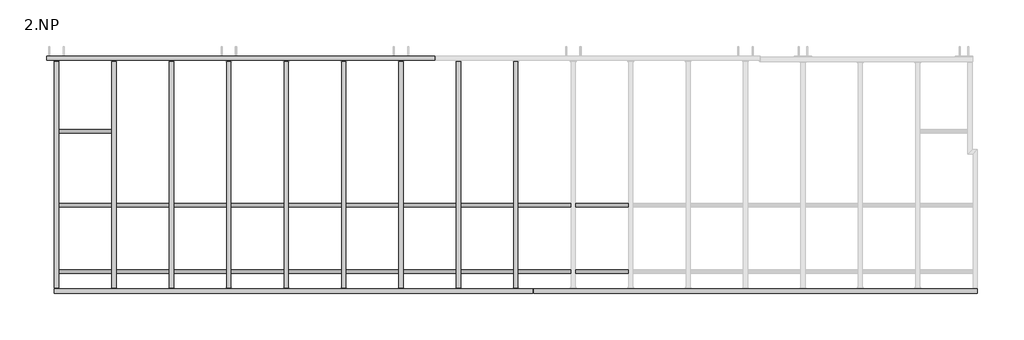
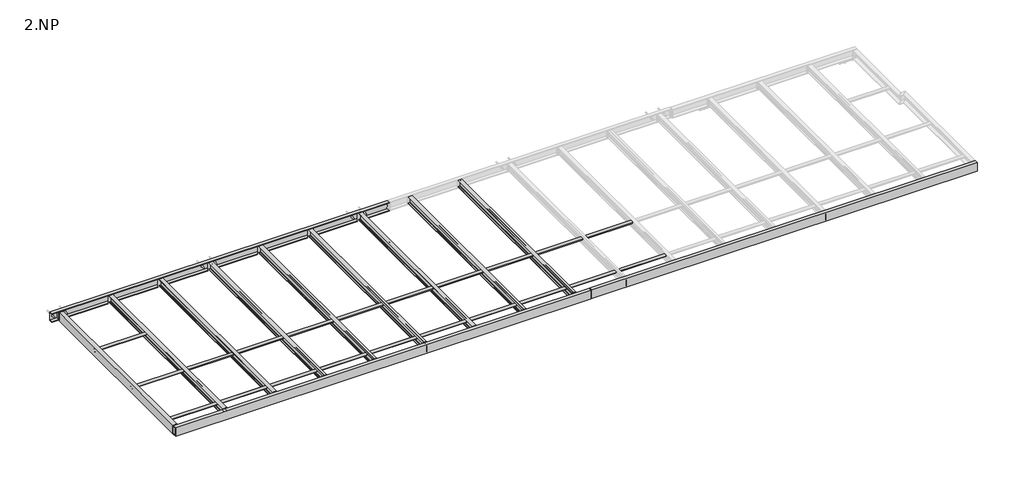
# One storey, part 1 of 18: 33 beams, 5 plates.
"""IFC4 building model written with IfcOpenShell, lengths in millimetres."""

from ifc_helpers import new_model, si_unit, point, frame, frame_2d, origin, place, context, project, spatial, polyline, circle_curve, trimmed, segment, composite_curve, outline, extrude, element, save

model = new_model("IFC4")

# Units and contexts
model_context = context("Model", 3, world=origin())
ifc_project = project(units=[si_unit("LENGTHUNIT", "METRE", prefix="MILLI")], contexts=[model_context])

# Site, building, storey
site = spatial("IfcSite", under=ifc_project)
building = spatial("IfcBuilding", under=site)
storey = spatial("IfcBuildingStorey", under=building, Name="2.NP", Elevation=3000.0)

# Beams
placement = place(None, origin())
element("IfcBeam", 1, ObjectType="CHS60.3*5", at=placement, inside=storey, context=model_context, shape_type="SweptSolid", body=[
    extrude(outline(composite_curve([segment(trimmed(circle_curve(frame_2d((1260.0, 3230.0)), 30.15), [point((1290.15, 3230.0))], [point((1229.85, 3230.0))], False, "CARTESIAN"), True, "CONTINUOUS"), segment(trimmed(circle_curve(frame_2d((1260.0, 3230.0)), 30.15), [point((1229.85, 3230.0))], [point((1290.15, 3230.0))], False, "CARTESIAN"), True, "CONTINUOUS")], self_intersect=False), holes=[composite_curve([segment(trimmed(circle_curve(frame_2d((1260.0, 3230.0)), 25.15), [point((1285.15, 3230.0))], [point((1234.85, 3230.0))], True, "CARTESIAN"), True, "CONTINUOUS"), segment(trimmed(circle_curve(frame_2d((1260.0, 3230.0)), 25.15), [point((1234.85, 3230.0))], [point((1285.15, 3230.0))], True, "CARTESIAN"), True, "CONTINUOUS")], self_intersect=False)]), frame((15.45, 0.0, 0.0), z_axis=(1.0, 0.0, 0.0), x_axis=(0.0, 1.0, 0.0)), (0.0, 0.0, 1.0), 1032.2),
])
element("IfcBeam", 2, ObjectType="CHS60.3*5", at=placement, inside=storey, context=model_context, shape_type="SweptSolid", body=[
    extrude(outline(composite_curve([segment(trimmed(circle_curve(frame_2d((1260.0, 3230.0)), 30.15), [point((1290.15, 3230.0))], [point((1229.85, 3230.0))], False, "CARTESIAN"), True, "CONTINUOUS"), segment(trimmed(circle_curve(frame_2d((1260.0, 3230.0)), 30.15), [point((1229.85, 3230.0))], [point((1290.15, 3230.0))], False, "CARTESIAN"), True, "CONTINUOUS")], self_intersect=False), holes=[composite_curve([segment(trimmed(circle_curve(frame_2d((1260.0, 3230.0)), 25.15), [point((1285.15, 3230.0))], [point((1234.85, 3230.0))], True, "CARTESIAN"), True, "CONTINUOUS"), segment(trimmed(circle_curve(frame_2d((1260.0, 3230.0)), 25.15), [point((1234.85, 3230.0))], [point((1285.15, 3230.0))], True, "CARTESIAN"), True, "CONTINUOUS")], self_intersect=False)]), frame((1052.35, 0.0, 0.0), z_axis=(1.0, 0.0, 0.0), x_axis=(0.0, 1.0, 0.0)), (0.0, 0.0, 1.0), 995.3),
])
element("IfcBeam", 3, ObjectType="CHS60.3*5", at=placement, inside=storey, context=model_context, shape_type="SweptSolid", body=[
    extrude(outline(composite_curve([segment(trimmed(circle_curve(frame_2d((1260.0, 3230.0)), 30.15), [point((1290.15, 3230.0))], [point((1229.85, 3230.0))], False, "CARTESIAN"), True, "CONTINUOUS"), segment(trimmed(circle_curve(frame_2d((1260.0, 3230.0)), 30.15), [point((1229.85, 3230.0))], [point((1290.15, 3230.0))], False, "CARTESIAN"), True, "CONTINUOUS")], self_intersect=False), holes=[composite_curve([segment(trimmed(circle_curve(frame_2d((1260.0, 3230.0)), 25.15), [point((1285.15, 3230.0))], [point((1234.85, 3230.0))], True, "CARTESIAN"), True, "CONTINUOUS"), segment(trimmed(circle_curve(frame_2d((1260.0, 3230.0)), 25.15), [point((1234.85, 3230.0))], [point((1285.15, 3230.0))], True, "CARTESIAN"), True, "CONTINUOUS")], self_intersect=False)]), frame((2052.35, 0.0, 0.0), z_axis=(1.0, 0.0, 0.0), x_axis=(0.0, 1.0, 0.0)), (0.0, 0.0, 1.0), 995.3),
])
element("IfcBeam", 4, ObjectType="CHS60.3*5", at=placement, inside=storey, context=model_context, shape_type="SweptSolid", body=[
    extrude(outline(composite_curve([segment(trimmed(circle_curve(frame_2d((1260.0, 3230.0)), 30.15), [point((1290.15, 3230.0))], [point((1229.85, 3230.0))], False, "CARTESIAN"), True, "CONTINUOUS"), segment(trimmed(circle_curve(frame_2d((1260.0, 3230.0)), 30.15), [point((1229.85, 3230.0))], [point((1290.15, 3230.0))], False, "CARTESIAN"), True, "CONTINUOUS")], self_intersect=False), holes=[composite_curve([segment(trimmed(circle_curve(frame_2d((1260.0, 3230.0)), 25.15), [point((1285.15, 3230.0))], [point((1234.85, 3230.0))], True, "CARTESIAN"), True, "CONTINUOUS"), segment(trimmed(circle_curve(frame_2d((1260.0, 3230.0)), 25.15), [point((1234.85, 3230.0))], [point((1285.15, 3230.0))], True, "CARTESIAN"), True, "CONTINUOUS")], self_intersect=False)]), frame((3052.35, 0.0, 0.0), z_axis=(1.0, 0.0, 0.0), x_axis=(0.0, 1.0, 0.0)), (0.0, 0.0, 1.0), 995.3),
])
element("IfcBeam", 5, ObjectType="CHS60.3*5", at=placement, inside=storey, context=model_context, shape_type="SweptSolid", body=[
    extrude(outline(composite_curve([segment(trimmed(circle_curve(frame_2d((1260.0, 3230.0)), 30.15), [point((1290.15, 3230.0))], [point((1229.85, 3230.0))], False, "CARTESIAN"), True, "CONTINUOUS"), segment(trimmed(circle_curve(frame_2d((1260.0, 3230.0)), 30.15), [point((1229.85, 3230.0))], [point((1290.15, 3230.0))], False, "CARTESIAN"), True, "CONTINUOUS")], self_intersect=False), holes=[composite_curve([segment(trimmed(circle_curve(frame_2d((1260.0, 3230.0)), 25.15), [point((1285.15, 3230.0))], [point((1234.85, 3230.0))], True, "CARTESIAN"), True, "CONTINUOUS"), segment(trimmed(circle_curve(frame_2d((1260.0, 3230.0)), 25.15), [point((1234.85, 3230.0))], [point((1285.15, 3230.0))], True, "CARTESIAN"), True, "CONTINUOUS")], self_intersect=False)]), frame((4052.35, 0.0, 0.0), z_axis=(1.0, 0.0, 0.0), x_axis=(0.0, 1.0, 0.0)), (0.0, 0.0, 1.0), 995.3),
])
element("IfcBeam", 6, ObjectType="CHS60.3*5", at=placement, inside=storey, context=model_context, shape_type="SweptSolid", body=[
    extrude(outline(composite_curve([segment(trimmed(circle_curve(frame_2d((1260.0, 3230.0)), 30.15), [point((1290.15, 3230.0))], [point((1229.85, 3230.0))], False, "CARTESIAN"), True, "CONTINUOUS"), segment(trimmed(circle_curve(frame_2d((1260.0, 3230.0)), 30.15), [point((1229.85, 3230.0))], [point((1290.15, 3230.0))], False, "CARTESIAN"), True, "CONTINUOUS")], self_intersect=False), holes=[composite_curve([segment(trimmed(circle_curve(frame_2d((1260.0, 3230.0)), 25.15), [point((1285.15, 3230.0))], [point((1234.85, 3230.0))], True, "CARTESIAN"), True, "CONTINUOUS"), segment(trimmed(circle_curve(frame_2d((1260.0, 3230.0)), 25.15), [point((1234.85, 3230.0))], [point((1285.15, 3230.0))], True, "CARTESIAN"), True, "CONTINUOUS")], self_intersect=False)]), frame((5052.35, 0.0, 0.0), z_axis=(1.0, 0.0, 0.0), x_axis=(0.0, 1.0, 0.0)), (0.0, 0.0, 1.0), 995.3),
])
element("IfcBeam", 7, ObjectType="CHS60.3*5", at=placement, inside=storey, context=model_context, shape_type="SweptSolid", body=[
    extrude(outline(composite_curve([segment(trimmed(circle_curve(frame_2d((1260.0, 3230.0)), 30.15), [point((1290.15, 3230.0))], [point((1229.85, 3230.0))], False, "CARTESIAN"), True, "CONTINUOUS"), segment(trimmed(circle_curve(frame_2d((1260.0, 3230.0)), 30.15), [point((1229.85, 3230.0))], [point((1290.15, 3230.0))], False, "CARTESIAN"), True, "CONTINUOUS")], self_intersect=False), holes=[composite_curve([segment(trimmed(circle_curve(frame_2d((1260.0, 3230.0)), 25.15), [point((1285.15, 3230.0))], [point((1234.85, 3230.0))], True, "CARTESIAN"), True, "CONTINUOUS"), segment(trimmed(circle_curve(frame_2d((1260.0, 3230.0)), 25.15), [point((1234.85, 3230.0))], [point((1285.15, 3230.0))], True, "CARTESIAN"), True, "CONTINUOUS")], self_intersect=False)]), frame((6052.35, 0.0, 0.0), z_axis=(1.0, 0.0, 0.0), x_axis=(0.0, 1.0, 0.0)), (0.0, 0.0, 1.0), 995.3),
])
element("IfcBeam", 8, ObjectType="CHS60.3*5", at=placement, inside=storey, context=model_context, shape_type="SweptSolid", body=[
    extrude(outline(composite_curve([segment(trimmed(circle_curve(frame_2d((1260.0, 3230.0)), 30.15), [point((1290.15, 3230.0))], [point((1229.85, 3230.0))], False, "CARTESIAN"), True, "CONTINUOUS"), segment(trimmed(circle_curve(frame_2d((1260.0, 3230.0)), 30.15), [point((1229.85, 3230.0))], [point((1290.15, 3230.0))], False, "CARTESIAN"), True, "CONTINUOUS")], self_intersect=False), holes=[composite_curve([segment(trimmed(circle_curve(frame_2d((1260.0, 3230.0)), 25.15), [point((1285.15, 3230.0))], [point((1234.85, 3230.0))], True, "CARTESIAN"), True, "CONTINUOUS"), segment(trimmed(circle_curve(frame_2d((1260.0, 3230.0)), 25.15), [point((1234.85, 3230.0))], [point((1285.15, 3230.0))], True, "CARTESIAN"), True, "CONTINUOUS")], self_intersect=False)]), frame((7052.35, 0.0, 0.0), z_axis=(1.0, 0.0, 0.0), x_axis=(0.0, 1.0, 0.0)), (0.0, 0.0, 1.0), 995.3),
])
element("IfcBeam", 9, ObjectType="CHS60.3*5", at=placement, inside=storey, context=model_context, shape_type="SweptSolid", body=[
    extrude(outline(composite_curve([segment(trimmed(circle_curve(frame_2d((1260.0, 3230.0)), 30.15), [point((1290.15, 3230.0))], [point((1229.85, 3230.0))], False, "CARTESIAN"), True, "CONTINUOUS"), segment(trimmed(circle_curve(frame_2d((1260.0, 3230.0)), 30.15), [point((1229.85, 3230.0))], [point((1290.15, 3230.0))], False, "CARTESIAN"), True, "CONTINUOUS")], self_intersect=False), holes=[composite_curve([segment(trimmed(circle_curve(frame_2d((1260.0, 3230.0)), 25.15), [point((1285.15, 3230.0))], [point((1234.85, 3230.0))], True, "CARTESIAN"), True, "CONTINUOUS"), segment(trimmed(circle_curve(frame_2d((1260.0, 3230.0)), 25.15), [point((1234.85, 3230.0))], [point((1285.15, 3230.0))], True, "CARTESIAN"), True, "CONTINUOUS")], self_intersect=False)]), frame((8052.35, 0.0, 0.0), z_axis=(1.0, 0.0, 0.0), x_axis=(0.0, 1.0, 0.0)), (0.0, 0.0, 1.0), 995.3),
])
element("IfcBeam", 10, ObjectType="CHS60.3*5", at=placement, inside=storey, context=model_context, shape_type="SweptSolid", body=[
    extrude(outline(composite_curve([segment(trimmed(circle_curve(frame_2d((1260.0, 3230.0)), 30.15), [point((1290.15, 3230.0))], [point((1229.85, 3230.0))], False, "CARTESIAN"), True, "CONTINUOUS"), segment(trimmed(circle_curve(frame_2d((1260.0, 3230.0)), 30.15), [point((1229.85, 3230.0))], [point((1290.15, 3230.0))], False, "CARTESIAN"), True, "CONTINUOUS")], self_intersect=False), holes=[composite_curve([segment(trimmed(circle_curve(frame_2d((1260.0, 3230.0)), 25.15), [point((1285.15, 3230.0))], [point((1234.85, 3230.0))], True, "CARTESIAN"), True, "CONTINUOUS"), segment(trimmed(circle_curve(frame_2d((1260.0, 3230.0)), 25.15), [point((1234.85, 3230.0))], [point((1285.15, 3230.0))], True, "CARTESIAN"), True, "CONTINUOUS")], self_intersect=False)]), frame((9052.35, 0.0, 0.0), z_axis=(1.0, 0.0, 0.0), x_axis=(0.0, 1.0, 0.0)), (0.0, 0.0, 1.0), 995.3),
])
element("IfcBeam", 11, ObjectType="CHS60.3*5", at=placement, inside=storey, context=model_context, shape_type="SweptSolid", body=[
    extrude(outline(composite_curve([segment(trimmed(circle_curve(frame_2d((100.0, 3230.0)), 30.15), [point((130.15, 3230.0))], [point((69.85, 3230.0))], False, "CARTESIAN"), True, "CONTINUOUS"), segment(trimmed(circle_curve(frame_2d((100.0, 3230.0)), 30.15), [point((69.85, 3230.0))], [point((130.15, 3230.0))], False, "CARTESIAN"), True, "CONTINUOUS")], self_intersect=False), holes=[composite_curve([segment(trimmed(circle_curve(frame_2d((100.0, 3230.0)), 25.15), [point((125.15, 3230.0))], [point((74.85, 3230.0))], True, "CARTESIAN"), True, "CONTINUOUS"), segment(trimmed(circle_curve(frame_2d((100.0, 3230.0)), 25.15), [point((74.85, 3230.0))], [point((125.15, 3230.0))], True, "CARTESIAN"), True, "CONTINUOUS")], self_intersect=False)]), frame((1052.35, 0.0, 0.0), z_axis=(1.0, 0.0, 0.0), x_axis=(0.0, 1.0, 0.0)), (0.0, 0.0, 1.0), 995.3),
])
element("IfcBeam", 12, ObjectType="CHS60.3*5", at=placement, inside=storey, context=model_context, shape_type="SweptSolid", body=[
    extrude(outline(composite_curve([segment(trimmed(circle_curve(frame_2d((100.0, 3230.0)), 30.15), [point((130.15, 3230.0))], [point((69.85, 3230.0))], False, "CARTESIAN"), True, "CONTINUOUS"), segment(trimmed(circle_curve(frame_2d((100.0, 3230.0)), 30.15), [point((69.85, 3230.0))], [point((130.15, 3230.0))], False, "CARTESIAN"), True, "CONTINUOUS")], self_intersect=False), holes=[composite_curve([segment(trimmed(circle_curve(frame_2d((100.0, 3230.0)), 25.15), [point((125.15, 3230.0))], [point((74.85, 3230.0))], True, "CARTESIAN"), True, "CONTINUOUS"), segment(trimmed(circle_curve(frame_2d((100.0, 3230.0)), 25.15), [point((74.85, 3230.0))], [point((125.15, 3230.0))], True, "CARTESIAN"), True, "CONTINUOUS")], self_intersect=False)]), frame((15.45, 0.0, 0.0), z_axis=(1.0, 0.0, 0.0), x_axis=(0.0, 1.0, 0.0)), (0.0, 0.0, 1.0), 1032.2),
])
element("IfcBeam", 13, ObjectType="CHS60.3*5", at=placement, inside=storey, context=model_context, shape_type="SweptSolid", body=[
    extrude(outline(composite_curve([segment(trimmed(circle_curve(frame_2d((100.0, 3230.0)), 30.15), [point((130.15, 3230.0))], [point((69.85, 3230.0))], False, "CARTESIAN"), True, "CONTINUOUS"), segment(trimmed(circle_curve(frame_2d((100.0, 3230.0)), 30.15), [point((69.85, 3230.0))], [point((130.15, 3230.0))], False, "CARTESIAN"), True, "CONTINUOUS")], self_intersect=False), holes=[composite_curve([segment(trimmed(circle_curve(frame_2d((100.0, 3230.0)), 25.15), [point((125.15, 3230.0))], [point((74.85, 3230.0))], True, "CARTESIAN"), True, "CONTINUOUS"), segment(trimmed(circle_curve(frame_2d((100.0, 3230.0)), 25.15), [point((74.85, 3230.0))], [point((125.15, 3230.0))], True, "CARTESIAN"), True, "CONTINUOUS")], self_intersect=False)]), frame((2052.35, 0.0, 0.0), z_axis=(1.0, 0.0, 0.0), x_axis=(0.0, 1.0, 0.0)), (0.0, 0.0, 1.0), 995.3),
])
element("IfcBeam", 14, ObjectType="CHS60.3*5", at=placement, inside=storey, context=model_context, shape_type="SweptSolid", body=[
    extrude(outline(composite_curve([segment(trimmed(circle_curve(frame_2d((100.0, 3230.0)), 30.15), [point((130.15, 3230.0))], [point((69.85, 3230.0))], False, "CARTESIAN"), True, "CONTINUOUS"), segment(trimmed(circle_curve(frame_2d((100.0, 3230.0)), 30.15), [point((69.85, 3230.0))], [point((130.15, 3230.0))], False, "CARTESIAN"), True, "CONTINUOUS")], self_intersect=False), holes=[composite_curve([segment(trimmed(circle_curve(frame_2d((100.0, 3230.0)), 25.15), [point((125.15, 3230.0))], [point((74.85, 3230.0))], True, "CARTESIAN"), True, "CONTINUOUS"), segment(trimmed(circle_curve(frame_2d((100.0, 3230.0)), 25.15), [point((74.85, 3230.0))], [point((125.15, 3230.0))], True, "CARTESIAN"), True, "CONTINUOUS")], self_intersect=False)]), frame((3052.35, 0.0, 0.0), z_axis=(1.0, 0.0, 0.0), x_axis=(0.0, 1.0, 0.0)), (0.0, 0.0, 1.0), 995.3),
])
element("IfcBeam", 15, ObjectType="CHS60.3*5", at=placement, inside=storey, context=model_context, shape_type="SweptSolid", body=[
    extrude(outline(composite_curve([segment(trimmed(circle_curve(frame_2d((100.0, 3230.0)), 30.15), [point((130.15, 3230.0))], [point((69.85, 3230.0))], False, "CARTESIAN"), True, "CONTINUOUS"), segment(trimmed(circle_curve(frame_2d((100.0, 3230.0)), 30.15), [point((69.85, 3230.0))], [point((130.15, 3230.0))], False, "CARTESIAN"), True, "CONTINUOUS")], self_intersect=False), holes=[composite_curve([segment(trimmed(circle_curve(frame_2d((100.0, 3230.0)), 25.15), [point((125.15, 3230.0))], [point((74.85, 3230.0))], True, "CARTESIAN"), True, "CONTINUOUS"), segment(trimmed(circle_curve(frame_2d((100.0, 3230.0)), 25.15), [point((74.85, 3230.0))], [point((125.15, 3230.0))], True, "CARTESIAN"), True, "CONTINUOUS")], self_intersect=False)]), frame((4052.35, 0.0, 0.0), z_axis=(1.0, 0.0, 0.0), x_axis=(0.0, 1.0, 0.0)), (0.0, 0.0, 1.0), 995.3),
])
element("IfcBeam", 16, ObjectType="CHS60.3*5", at=placement, inside=storey, context=model_context, shape_type="SweptSolid", body=[
    extrude(outline(composite_curve([segment(trimmed(circle_curve(frame_2d((100.0, 3230.0)), 30.15), [point((130.15, 3230.0))], [point((69.85, 3230.0))], False, "CARTESIAN"), True, "CONTINUOUS"), segment(trimmed(circle_curve(frame_2d((100.0, 3230.0)), 30.15), [point((69.85, 3230.0))], [point((130.15, 3230.0))], False, "CARTESIAN"), True, "CONTINUOUS")], self_intersect=False), holes=[composite_curve([segment(trimmed(circle_curve(frame_2d((100.0, 3230.0)), 25.15), [point((125.15, 3230.0))], [point((74.85, 3230.0))], True, "CARTESIAN"), True, "CONTINUOUS"), segment(trimmed(circle_curve(frame_2d((100.0, 3230.0)), 25.15), [point((74.85, 3230.0))], [point((125.15, 3230.0))], True, "CARTESIAN"), True, "CONTINUOUS")], self_intersect=False)]), frame((5052.35, 0.0, 0.0), z_axis=(1.0, 0.0, 0.0), x_axis=(0.0, 1.0, 0.0)), (0.0, 0.0, 1.0), 995.3),
])
element("IfcBeam", 17, ObjectType="CHS60.3*5", at=placement, inside=storey, context=model_context, shape_type="SweptSolid", body=[
    extrude(outline(composite_curve([segment(trimmed(circle_curve(frame_2d((100.0, 3230.0)), 30.15), [point((130.15, 3230.0))], [point((69.85, 3230.0))], False, "CARTESIAN"), True, "CONTINUOUS"), segment(trimmed(circle_curve(frame_2d((100.0, 3230.0)), 30.15), [point((69.85, 3230.0))], [point((130.15, 3230.0))], False, "CARTESIAN"), True, "CONTINUOUS")], self_intersect=False), holes=[composite_curve([segment(trimmed(circle_curve(frame_2d((100.0, 3230.0)), 25.15), [point((125.15, 3230.0))], [point((74.85, 3230.0))], True, "CARTESIAN"), True, "CONTINUOUS"), segment(trimmed(circle_curve(frame_2d((100.0, 3230.0)), 25.15), [point((74.85, 3230.0))], [point((125.15, 3230.0))], True, "CARTESIAN"), True, "CONTINUOUS")], self_intersect=False)]), frame((6052.35, 0.0, 0.0), z_axis=(1.0, 0.0, 0.0), x_axis=(0.0, 1.0, 0.0)), (0.0, 0.0, 1.0), 995.3),
])
element("IfcBeam", 18, ObjectType="CHS60.3*5", at=placement, inside=storey, context=model_context, shape_type="SweptSolid", body=[
    extrude(outline(composite_curve([segment(trimmed(circle_curve(frame_2d((100.0, 3230.0)), 30.15), [point((130.15, 3230.0))], [point((69.85, 3230.0))], False, "CARTESIAN"), True, "CONTINUOUS"), segment(trimmed(circle_curve(frame_2d((100.0, 3230.0)), 30.15), [point((69.85, 3230.0))], [point((130.15, 3230.0))], False, "CARTESIAN"), True, "CONTINUOUS")], self_intersect=False), holes=[composite_curve([segment(trimmed(circle_curve(frame_2d((100.0, 3230.0)), 25.15), [point((125.15, 3230.0))], [point((74.85, 3230.0))], True, "CARTESIAN"), True, "CONTINUOUS"), segment(trimmed(circle_curve(frame_2d((100.0, 3230.0)), 25.15), [point((74.85, 3230.0))], [point((125.15, 3230.0))], True, "CARTESIAN"), True, "CONTINUOUS")], self_intersect=False)]), frame((7052.35, 0.0, 0.0), z_axis=(1.0, 0.0, 0.0), x_axis=(0.0, 1.0, 0.0)), (0.0, 0.0, 1.0), 995.3),
])
element("IfcBeam", 19, ObjectType="CHS60.3*5", at=placement, inside=storey, context=model_context, shape_type="SweptSolid", body=[
    extrude(outline(composite_curve([segment(trimmed(circle_curve(frame_2d((100.0, 3230.0)), 30.15), [point((130.15, 3230.0))], [point((69.85, 3230.0))], False, "CARTESIAN"), True, "CONTINUOUS"), segment(trimmed(circle_curve(frame_2d((100.0, 3230.0)), 30.15), [point((69.85, 3230.0))], [point((130.15, 3230.0))], False, "CARTESIAN"), True, "CONTINUOUS")], self_intersect=False), holes=[composite_curve([segment(trimmed(circle_curve(frame_2d((100.0, 3230.0)), 25.15), [point((125.15, 3230.0))], [point((74.85, 3230.0))], True, "CARTESIAN"), True, "CONTINUOUS"), segment(trimmed(circle_curve(frame_2d((100.0, 3230.0)), 25.15), [point((74.85, 3230.0))], [point((125.15, 3230.0))], True, "CARTESIAN"), True, "CONTINUOUS")], self_intersect=False)]), frame((8052.35, 0.0, 0.0), z_axis=(1.0, 0.0, 0.0), x_axis=(0.0, 1.0, 0.0)), (0.0, 0.0, 1.0), 995.3),
])
element("IfcBeam", 20, ObjectType="CHS60.3*5", at=placement, inside=storey, context=model_context, shape_type="SweptSolid", body=[
    extrude(outline(composite_curve([segment(trimmed(circle_curve(frame_2d((100.0, 3230.0)), 30.15), [point((130.15, 3230.0))], [point((69.85, 3230.0))], False, "CARTESIAN"), True, "CONTINUOUS"), segment(trimmed(circle_curve(frame_2d((100.0, 3230.0)), 30.15), [point((69.85, 3230.0))], [point((130.15, 3230.0))], False, "CARTESIAN"), True, "CONTINUOUS")], self_intersect=False), holes=[composite_curve([segment(trimmed(circle_curve(frame_2d((100.0, 3230.0)), 25.15), [point((125.15, 3230.0))], [point((74.85, 3230.0))], True, "CARTESIAN"), True, "CONTINUOUS"), segment(trimmed(circle_curve(frame_2d((100.0, 3230.0)), 25.15), [point((74.85, 3230.0))], [point((125.15, 3230.0))], True, "CARTESIAN"), True, "CONTINUOUS")], self_intersect=False)]), frame((9052.35, 0.0, 0.0), z_axis=(1.0, 0.0, 0.0), x_axis=(0.0, 1.0, 0.0)), (0.0, 0.0, 1.0), 995.3),
])
element("IfcBeam", 21, ObjectType="CHS60.3*5", at=placement, inside=storey, context=model_context, shape_type="SweptSolid", body=[
    extrude(outline(composite_curve([segment(trimmed(circle_curve(frame_2d((2550.0, 3230.0)), 30.15), [point((2580.15, 3230.0))], [point((2519.85, 3230.0))], False, "CARTESIAN"), True, "CONTINUOUS"), segment(trimmed(circle_curve(frame_2d((2550.0, 3230.0)), 30.15), [point((2519.85, 3230.0))], [point((2580.15, 3230.0))], False, "CARTESIAN"), True, "CONTINUOUS")], self_intersect=False), holes=[composite_curve([segment(trimmed(circle_curve(frame_2d((2550.0, 3230.0)), 25.15), [point((2575.15, 3230.0))], [point((2524.85, 3230.0))], True, "CARTESIAN"), True, "CONTINUOUS"), segment(trimmed(circle_curve(frame_2d((2550.0, 3230.0)), 25.15), [point((2524.85, 3230.0))], [point((2575.15, 3230.0))], True, "CARTESIAN"), True, "CONTINUOUS")], self_intersect=False)]), frame((15.5, 0.0, 0.0), z_axis=(1.0, 0.0, 0.0), x_axis=(0.0, 1.0, 0.0)), (0.0, 0.0, 1.0), 1034.5),
])
element("IfcBeam", 22, ObjectType="IPE140", at=placement, inside=storey, context=model_context, shape_type="SweptSolid", body=[
    extrude(outline(composite_curve([segment(polyline([(3160.0, 3013.5), (3160.0, 3086.5), (3166.9000001, 3086.5), (3166.9000001, 3059.3499999)]), True, "CONTINUOUS"), segment(trimmed(circle_curve(frame_2d((3173.9000001, 3059.3499999)), 7.0), [point((3166.9000001, 3059.3499999))], [point((3173.9000001, 3052.3499999))], True, "CARTESIAN"), True, "CONTINUOUS"), segment(polyline([(3173.9000001, 3052.3499999), (3286.0999999, 3052.3499999)]), True, "CONTINUOUS"), segment(trimmed(circle_curve(frame_2d((3286.0999999, 3059.3499999)), 7.0), [point((3286.0999999, 3052.3499999))], [point((3293.0999999, 3059.3499999))], True, "CARTESIAN"), True, "CONTINUOUS"), segment(polyline([(3293.0999999, 3059.3499999), (3293.0999999, 3086.5), (3300.0, 3086.5), (3300.0, 3013.5), (3293.0999999, 3013.5), (3293.0999999, 3040.6500001)]), True, "CONTINUOUS"), segment(trimmed(circle_curve(frame_2d((3286.0999999, 3040.6500001)), 7.0), [point((3293.0999999, 3040.6500001))], [point((3286.0999999, 3047.6500001))], True, "CARTESIAN"), True, "CONTINUOUS"), segment(polyline([(3286.0999999, 3047.6500001), (3173.9000001, 3047.6500001)]), True, "CONTINUOUS"), segment(trimmed(circle_curve(frame_2d((3173.9000001, 3040.6500001)), 7.0), [point((3173.9000001, 3047.6500001))], [point((3166.9000001, 3040.6500001))], True, "CARTESIAN"), True, "CONTINUOUS"), segment(polyline([(3166.9000001, 3040.6500001), (3166.9000001, 3013.5), (3160.0, 3013.5)]), True, "CONTINUOUS")], self_intersect=False)), frame((0.0, -180.0, 0.0), z_axis=(0.0, 1.0, 0.0), x_axis=(0.0, 0.0, 1.0)), (0.0, 0.0, 1.0), 3947.0),
])
element("IfcBeam", 23, ObjectType="IPE140", at=placement, inside=storey, context=model_context, shape_type="SweptSolid", body=[
    extrude(outline(composite_curve([segment(polyline([(3160.0, 4013.5), (3160.0, 4086.5), (3166.9000001, 4086.5), (3166.9000001, 4059.3499999)]), True, "CONTINUOUS"), segment(trimmed(circle_curve(frame_2d((3173.9000001, 4059.3499999)), 7.0), [point((3166.9000001, 4059.3499999))], [point((3173.9000001, 4052.3499999))], True, "CARTESIAN"), True, "CONTINUOUS"), segment(polyline([(3173.9000001, 4052.3499999), (3286.0999999, 4052.3499999)]), True, "CONTINUOUS"), segment(trimmed(circle_curve(frame_2d((3286.0999999, 4059.3499999)), 7.0), [point((3286.0999999, 4052.3499999))], [point((3293.0999999, 4059.3499999))], True, "CARTESIAN"), True, "CONTINUOUS"), segment(polyline([(3293.0999999, 4059.3499999), (3293.0999999, 4086.5), (3300.0, 4086.5), (3300.0, 4013.5), (3293.0999999, 4013.5), (3293.0999999, 4040.6500001)]), True, "CONTINUOUS"), segment(trimmed(circle_curve(frame_2d((3286.0999999, 4040.6500001)), 7.0), [point((3293.0999999, 4040.6500001))], [point((3286.0999999, 4047.6500001))], True, "CARTESIAN"), True, "CONTINUOUS"), segment(polyline([(3286.0999999, 4047.6500001), (3173.9000001, 4047.6500001)]), True, "CONTINUOUS"), segment(trimmed(circle_curve(frame_2d((3173.9000001, 4040.6500001)), 7.0), [point((3173.9000001, 4047.6500001))], [point((3166.9000001, 4040.6500001))], True, "CARTESIAN"), True, "CONTINUOUS"), segment(polyline([(3166.9000001, 4040.6500001), (3166.9000001, 4013.5), (3160.0, 4013.5)]), True, "CONTINUOUS")], self_intersect=False)), frame((0.0, -180.0, 0.0), z_axis=(0.0, 1.0, 0.0), x_axis=(0.0, 0.0, 1.0)), (0.0, 0.0, 1.0), 3947.0),
])
element("IfcBeam", 24, ObjectType="IPE140", at=placement, inside=storey, context=model_context, shape_type="SweptSolid", body=[
    extrude(outline(composite_curve([segment(polyline([(3160.0, 5013.5), (3160.0, 5086.5), (3166.9000001, 5086.5), (3166.9000001, 5059.3499999)]), True, "CONTINUOUS"), segment(trimmed(circle_curve(frame_2d((3173.9000001, 5059.3499999)), 7.0), [point((3166.9000001, 5059.3499999))], [point((3173.9000001, 5052.3499999))], True, "CARTESIAN"), True, "CONTINUOUS"), segment(polyline([(3173.9000001, 5052.3499999), (3286.0999999, 5052.3499999)]), True, "CONTINUOUS"), segment(trimmed(circle_curve(frame_2d((3286.0999999, 5059.3499999)), 7.0), [point((3286.0999999, 5052.3499999))], [point((3293.0999999, 5059.3499999))], True, "CARTESIAN"), True, "CONTINUOUS"), segment(polyline([(3293.0999999, 5059.3499999), (3293.0999999, 5086.5), (3300.0, 5086.5), (3300.0, 5013.5), (3293.0999999, 5013.5), (3293.0999999, 5040.6500001)]), True, "CONTINUOUS"), segment(trimmed(circle_curve(frame_2d((3286.0999999, 5040.6500001)), 7.0), [point((3293.0999999, 5040.6500001))], [point((3286.0999999, 5047.6500001))], True, "CARTESIAN"), True, "CONTINUOUS"), segment(polyline([(3286.0999999, 5047.6500001), (3173.9000001, 5047.6500001)]), True, "CONTINUOUS"), segment(trimmed(circle_curve(frame_2d((3173.9000001, 5040.6500001)), 7.0), [point((3173.9000001, 5047.6500001))], [point((3166.9000001, 5040.6500001))], True, "CARTESIAN"), True, "CONTINUOUS"), segment(polyline([(3166.9000001, 5040.6500001), (3166.9000001, 5013.5), (3160.0, 5013.5)]), True, "CONTINUOUS")], self_intersect=False)), frame((0.0, -180.0, 0.0), z_axis=(0.0, 1.0, 0.0), x_axis=(0.0, 0.0, 1.0)), (0.0, 0.0, 1.0), 3947.0),
])
element("IfcBeam", 25, ObjectType="IPE140", at=placement, inside=storey, context=model_context, shape_type="SweptSolid", body=[
    extrude(outline(composite_curve([segment(polyline([(3160.0, 6013.5), (3160.0, 6086.5), (3166.9000001, 6086.5), (3166.9000001, 6059.3499999)]), True, "CONTINUOUS"), segment(trimmed(circle_curve(frame_2d((3173.9000001, 6059.3499999)), 7.0), [point((3166.9000001, 6059.3499999))], [point((3173.9000001, 6052.3499999))], True, "CARTESIAN"), True, "CONTINUOUS"), segment(polyline([(3173.9000001, 6052.3499999), (3286.0999999, 6052.3499999)]), True, "CONTINUOUS"), segment(trimmed(circle_curve(frame_2d((3286.0999999, 6059.3499999)), 7.0), [point((3286.0999999, 6052.3499999))], [point((3293.0999999, 6059.3499999))], True, "CARTESIAN"), True, "CONTINUOUS"), segment(polyline([(3293.0999999, 6059.3499999), (3293.0999999, 6086.5), (3300.0, 6086.5), (3300.0, 6013.5), (3293.0999999, 6013.5), (3293.0999999, 6040.6500001)]), True, "CONTINUOUS"), segment(trimmed(circle_curve(frame_2d((3286.0999999, 6040.6500001)), 7.0), [point((3293.0999999, 6040.6500001))], [point((3286.0999999, 6047.6500001))], True, "CARTESIAN"), True, "CONTINUOUS"), segment(polyline([(3286.0999999, 6047.6500001), (3173.9000001, 6047.6500001)]), True, "CONTINUOUS"), segment(trimmed(circle_curve(frame_2d((3173.9000001, 6040.6500001)), 7.0), [point((3173.9000001, 6047.6500001))], [point((3166.9000001, 6040.6500001))], True, "CARTESIAN"), True, "CONTINUOUS"), segment(polyline([(3166.9000001, 6040.6500001), (3166.9000001, 6013.5), (3160.0, 6013.5)]), True, "CONTINUOUS")], self_intersect=False)), frame((0.0, -180.0, 0.0), z_axis=(0.0, 1.0, 0.0), x_axis=(0.0, 0.0, 1.0)), (0.0, 0.0, 1.0), 3947.0),
])
element("IfcBeam", 26, ObjectType="IPE140", at=placement, inside=storey, context=model_context, shape_type="SweptSolid", body=[
    extrude(outline(composite_curve([segment(polyline([(3160.0, 7013.5), (3160.0, 7086.5), (3166.9000001, 7086.5), (3166.9000001, 7059.3499999)]), True, "CONTINUOUS"), segment(trimmed(circle_curve(frame_2d((3173.9000001, 7059.3499999)), 7.0), [point((3166.9000001, 7059.3499999))], [point((3173.9000001, 7052.3499999))], True, "CARTESIAN"), True, "CONTINUOUS"), segment(polyline([(3173.9000001, 7052.3499999), (3286.0999999, 7052.3499999)]), True, "CONTINUOUS"), segment(trimmed(circle_curve(frame_2d((3286.0999999, 7059.3499999)), 7.0), [point((3286.0999999, 7052.3499999))], [point((3293.0999999, 7059.3499999))], True, "CARTESIAN"), True, "CONTINUOUS"), segment(polyline([(3293.0999999, 7059.3499999), (3293.0999999, 7086.5), (3300.0, 7086.5), (3300.0, 7013.5), (3293.0999999, 7013.5), (3293.0999999, 7040.6500001)]), True, "CONTINUOUS"), segment(trimmed(circle_curve(frame_2d((3286.0999999, 7040.6500001)), 7.0), [point((3293.0999999, 7040.6500001))], [point((3286.0999999, 7047.6500001))], True, "CARTESIAN"), True, "CONTINUOUS"), segment(polyline([(3286.0999999, 7047.6500001), (3173.9000001, 7047.6500001)]), True, "CONTINUOUS"), segment(trimmed(circle_curve(frame_2d((3173.9000001, 7040.6500001)), 7.0), [point((3173.9000001, 7047.6500001))], [point((3166.9000001, 7040.6500001))], True, "CARTESIAN"), True, "CONTINUOUS"), segment(polyline([(3166.9000001, 7040.6500001), (3166.9000001, 7013.5), (3160.0, 7013.5)]), True, "CONTINUOUS")], self_intersect=False)), frame((0.0, -180.0, 0.0), z_axis=(0.0, 1.0, 0.0), x_axis=(0.0, 0.0, 1.0)), (0.0, 0.0, 1.0), 3947.0),
])
element("IfcBeam", 27, ObjectType="IPE140", at=placement, inside=storey, context=model_context, shape_type="SweptSolid", body=[
    extrude(outline(composite_curve([segment(polyline([(3160.0, 8013.5), (3160.0, 8086.5), (3166.9000001, 8086.5), (3166.9000001, 8059.3499999)]), True, "CONTINUOUS"), segment(trimmed(circle_curve(frame_2d((3173.9000001, 8059.3499999)), 7.0), [point((3166.9000001, 8059.3499999))], [point((3173.9000001, 8052.3499999))], True, "CARTESIAN"), True, "CONTINUOUS"), segment(polyline([(3173.9000001, 8052.3499999), (3286.0999999, 8052.3499999)]), True, "CONTINUOUS"), segment(trimmed(circle_curve(frame_2d((3286.0999999, 8059.3499999)), 7.0), [point((3286.0999999, 8052.3499999))], [point((3293.0999999, 8059.3499999))], True, "CARTESIAN"), True, "CONTINUOUS"), segment(polyline([(3293.0999999, 8059.3499999), (3293.0999999, 8086.5), (3300.0, 8086.5), (3300.0, 8013.5), (3293.0999999, 8013.5), (3293.0999999, 8040.6500001)]), True, "CONTINUOUS"), segment(trimmed(circle_curve(frame_2d((3286.0999999, 8040.6500001)), 7.0), [point((3293.0999999, 8040.6500001))], [point((3286.0999999, 8047.6500001))], True, "CARTESIAN"), True, "CONTINUOUS"), segment(polyline([(3286.0999999, 8047.6500001), (3173.9000001, 8047.6500001)]), True, "CONTINUOUS"), segment(trimmed(circle_curve(frame_2d((3173.9000001, 8040.6500001)), 7.0), [point((3173.9000001, 8047.6500001))], [point((3166.9000001, 8040.6500001))], True, "CARTESIAN"), True, "CONTINUOUS"), segment(polyline([(3166.9000001, 8040.6500001), (3166.9000001, 8013.5), (3160.0, 8013.5)]), True, "CONTINUOUS")], self_intersect=False)), frame((0.0, -180.0, 0.0), z_axis=(0.0, 1.0, 0.0), x_axis=(0.0, 0.0, 1.0)), (0.0, 0.0, 1.0), 3947.0),
])
element("IfcBeam", 28, ObjectType="IPE140", at=placement, inside=storey, context=model_context, shape_type="SweptSolid", body=[
    extrude(outline(composite_curve([segment(polyline([(3160.0, 2013.5), (3160.0, 2086.5), (3166.9000001, 2086.5), (3166.9000001, 2059.3499999)]), True, "CONTINUOUS"), segment(trimmed(circle_curve(frame_2d((3173.9000001, 2059.3499999)), 7.0), [point((3166.9000001, 2059.3499999))], [point((3173.9000001, 2052.3499999))], True, "CARTESIAN"), True, "CONTINUOUS"), segment(polyline([(3173.9000001, 2052.3499999), (3286.0999999, 2052.3499999)]), True, "CONTINUOUS"), segment(trimmed(circle_curve(frame_2d((3286.0999999, 2059.3499999)), 7.0), [point((3286.0999999, 2052.3499999))], [point((3293.0999999, 2059.3499999))], True, "CARTESIAN"), True, "CONTINUOUS"), segment(polyline([(3293.0999999, 2059.3499999), (3293.0999999, 2086.5), (3300.0, 2086.5), (3300.0, 2013.5), (3293.0999999, 2013.5), (3293.0999999, 2040.6500001)]), True, "CONTINUOUS"), segment(trimmed(circle_curve(frame_2d((3286.0999999, 2040.6500001)), 7.0), [point((3293.0999999, 2040.6500001))], [point((3286.0999999, 2047.6500001))], True, "CARTESIAN"), True, "CONTINUOUS"), segment(polyline([(3286.0999999, 2047.6500001), (3173.9000001, 2047.6500001)]), True, "CONTINUOUS"), segment(trimmed(circle_curve(frame_2d((3173.9000001, 2040.6500001)), 7.0), [point((3173.9000001, 2047.6500001))], [point((3166.9000001, 2040.6500001))], True, "CARTESIAN"), True, "CONTINUOUS"), segment(polyline([(3166.9000001, 2040.6500001), (3166.9000001, 2013.5), (3160.0, 2013.5)]), True, "CONTINUOUS")], self_intersect=False)), frame((0.0, -180.0, 0.0), z_axis=(0.0, 1.0, 0.0), x_axis=(0.0, 0.0, 1.0)), (0.0, 0.0, 1.0), 3947.0),
])
element("IfcBeam", 29, ObjectType="IPE140", at=placement, inside=storey, context=model_context, shape_type="SweptSolid", body=[
    extrude(outline(composite_curve([segment(polyline([(3160.0, 1013.5), (3160.0, 1086.5), (3166.9000001, 1086.5), (3166.9000001, 1059.3499999)]), True, "CONTINUOUS"), segment(trimmed(circle_curve(frame_2d((3173.9000001, 1059.3499999)), 7.0), [point((3166.9000001, 1059.3499999))], [point((3173.9000001, 1052.3499999))], True, "CARTESIAN"), True, "CONTINUOUS"), segment(polyline([(3173.9000001, 1052.3499999), (3286.0999999, 1052.3499999)]), True, "CONTINUOUS"), segment(trimmed(circle_curve(frame_2d((3286.0999999, 1059.3499999)), 7.0), [point((3286.0999999, 1052.3499999))], [point((3293.0999999, 1059.3499999))], True, "CARTESIAN"), True, "CONTINUOUS"), segment(polyline([(3293.0999999, 1059.3499999), (3293.0999999, 1086.5), (3300.0, 1086.5), (3300.0, 1013.5), (3293.0999999, 1013.5), (3293.0999999, 1040.6500001)]), True, "CONTINUOUS"), segment(trimmed(circle_curve(frame_2d((3286.0999999, 1040.6500001)), 7.0), [point((3293.0999999, 1040.6500001))], [point((3286.0999999, 1047.6500001))], True, "CARTESIAN"), True, "CONTINUOUS"), segment(polyline([(3286.0999999, 1047.6500001), (3173.9000001, 1047.6500001)]), True, "CONTINUOUS"), segment(trimmed(circle_curve(frame_2d((3173.9000001, 1040.6500001)), 7.0), [point((3173.9000001, 1047.6500001))], [point((3166.9000001, 1040.6500001))], True, "CARTESIAN"), True, "CONTINUOUS"), segment(polyline([(3166.9000001, 1040.6500001), (3166.9000001, 1013.5), (3160.0, 1013.5)]), True, "CONTINUOUS")], self_intersect=False)), frame((0.0, -180.0, 0.0), z_axis=(0.0, 1.0, 0.0), x_axis=(0.0, 0.0, 1.0)), (0.0, 0.0, 1.0), 3947.0),
])
element("IfcBeam", 30, ObjectType="UPE180", at=placement, inside=storey, context=model_context, shape_type="SweptSolid", body=[
    extrude(outline(polyline([(-275.0, 3120.0), (-275.0, 3300.0), (-200.0, 3300.0), (-200.0, 3289.5), (-269.5, 3289.5), (-269.5, 3130.5), (-200.0, 3130.5), (-200.0, 3120.0), (-275.0, 3120.0)])), frame((8360.0, 0.0, 0.0), z_axis=(1.0, 0.0, 0.0), x_axis=(0.0, 1.0, 0.0)), (0.0, 0.0, 1.0), 7730.0),
])
element("IfcBeam", 31, ObjectType="UPE180", at=placement, inside=storey, context=model_context, shape_type="SweptSolid", body=[
    extrude(outline(polyline([(3120.0, 10.0), (3120.0, 85.0), (3130.5, 85.0), (3130.5, 15.5), (3289.5, 15.5), (3289.5, 85.0), (3300.0, 85.0), (3300.0, 10.0), (3120.0, 10.0)])), frame((0.0, -180.0, 0.0), z_axis=(0.0, 1.0, 0.0), x_axis=(0.0, 0.0, 1.0)), (0.0, 0.0, 1.0), 3945.0),
])
element("IfcBeam", 32, ObjectType="UPE180", at=placement, inside=storey, context=model_context, shape_type="SweptSolid", body=[
    extrude(outline(polyline([(-275.0, 3120.0), (-275.0, 3300.0), (-200.0, 3300.0), (-200.0, 3289.5), (-269.5, 3289.5), (-269.5, 3130.5), (-200.0, 3130.5), (-200.0, 3120.0), (-275.0, 3120.0)])), frame((10.0, 0.0, 0.0), z_axis=(1.0, 0.0, 0.0), x_axis=(0.0, 1.0, 0.0)), (0.0, 0.0, 1.0), 8330.0),
])
element("IfcBeam", 33, ObjectType="UPE180", at=placement, inside=storey, context=model_context, shape_type="SweptSolid", body=[
    extrude(outline(polyline([(3860.0, 3300.0), (3860.0, 3120.0), (3785.0, 3120.0), (3785.0, 3130.5), (3854.5, 3130.5), (3854.5, 3289.5), (3785.0, 3289.5), (3785.0, 3300.0), (3860.0, 3300.0)])), frame((-125.0, 0.0, 0.0), z_axis=(1.0, 0.0, 0.0), x_axis=(0.0, 1.0, 0.0)), (0.0, 0.0, 1.0), 6765.0),
])

# Plates
element("IfcPlate", 34, ObjectType="PL10*75", at=placement, inside=storey, context=model_context, shape_type="SweptSolid", body=[
    extrude(outline(polyline([(85.0, 3775.0), (10.0, 3775.0), (10.0, 3785.0), (85.0, 3785.0), (85.0, 3775.0)])), frame((0.0, 0.0, 3130.0), z_axis=(0.0, 0.0, 1.0), x_axis=(1.0, 0.0, 0.0)), (0.0, 0.0, 1.0), 160.0),
])
element("IfcPlate", 35, ObjectType="PL10*75", at=placement, inside=storey, context=model_context, shape_type="SweptSolid", body=[
    extrude(outline(polyline([(85.0, 3765.0), (10.0, 3765.0), (10.0, 3775.0), (85.0, 3775.0), (85.0, 3765.0)])), frame((0.0, 0.0, 3130.0), z_axis=(0.0, 0.0, 1.0), x_axis=(1.0, 0.0, 0.0)), (0.0, 0.0, 1.0), 160.0),
])
element("IfcPlate", 36, ObjectType="PL8*70", at=placement, inside=storey, context=model_context, shape_type="SweptSolid", body=[
    extrude(outline(composite_curve([segment(polyline([(3785.0, 3289.5), (3834.5, 3289.5)]), True, "CONTINUOUS"), segment(trimmed(circle_curve(frame_2d((3854.5, 3289.5)), 20.0), [point((3834.5, 3289.5))], [point((3854.5, 3269.5))], True, "CARTESIAN"), True, "CONTINUOUS"), segment(polyline([(3854.5, 3269.5), (3854.5, 3150.5)]), True, "CONTINUOUS"), segment(trimmed(circle_curve(frame_2d((3854.5, 3130.5)), 20.0), [point((3854.5, 3150.5))], [point((3834.5, 3130.5))], True, "CARTESIAN"), True, "CONTINUOUS"), segment(polyline([(3834.5, 3130.5), (3785.0, 3130.5), (3785.0, 3289.5)]), True, "CONTINUOUS")], self_intersect=False)), frame((15.5, 0.0, 0.0), z_axis=(1.0, 0.0, 0.0), x_axis=(0.0, 1.0, 0.0)), (0.0, 0.0, 1.0), 8.0),
])
element("IfcPlate", 37, ObjectType="PL10*70", at=placement, inside=storey, context=model_context, shape_type="SweptSolid", body=[
    extrude(outline(polyline([(8350.0, -200.0), (8350.0, -270.0), (8340.0, -270.0), (8340.0, -200.0), (8350.0, -200.0)])), frame((0.0, 0.0, 3130.5), z_axis=(0.0, 0.0, 1.0), x_axis=(1.0, 0.0, 0.0)), (0.0, 0.0, 1.0), 159.0),
])
element("IfcPlate", 38, ObjectType="PL10*70", at=placement, inside=storey, context=model_context, shape_type="SweptSolid", body=[
    extrude(outline(polyline([(8360.0, -200.0), (8360.0, -270.0), (8350.0, -270.0), (8350.0, -200.0), (8360.0, -200.0)])), frame((0.0, 0.0, 3130.5), z_axis=(0.0, 0.0, 1.0), x_axis=(1.0, 0.0, 0.0)), (0.0, 0.0, 1.0), 159.0),
])

save(model, "model.ifc")
